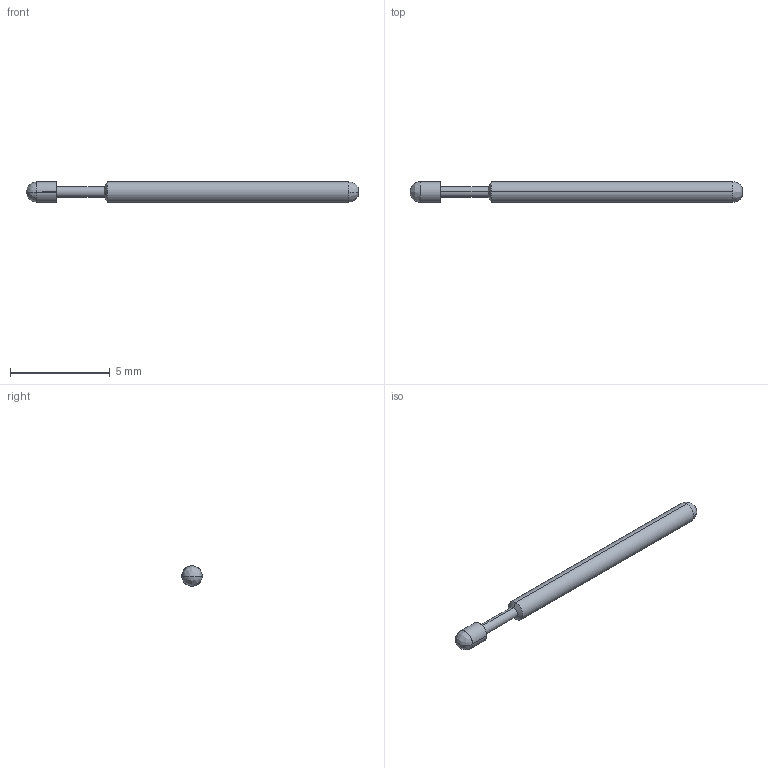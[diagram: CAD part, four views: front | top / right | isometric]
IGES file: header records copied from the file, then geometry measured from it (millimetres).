
Start section: SolidWorks IGES file using analytic representation for surfaces
Global section: file name: F:\OneDrive\Desktop\Coda\24.8\PA2 series RTP\CAD Files\PA2D.IGS; native system: SolidWorks 2021; preprocessor: SolidWorks 2021; author: Georg; date: 210825.122836; units: inch
Bounding box: 16.64 x 1.02 x 1.02 mm (x, y, z)
Surface area: 50.4 mm2 (no closed solid volume)
Topology: 0 solids, 0 shells, 14 faces, 100 edges, 98 vertices
Faces by surface type: revolution 8, bspline 6
